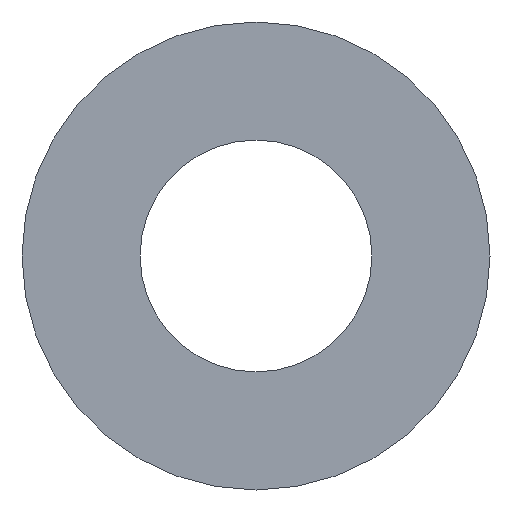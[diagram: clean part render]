
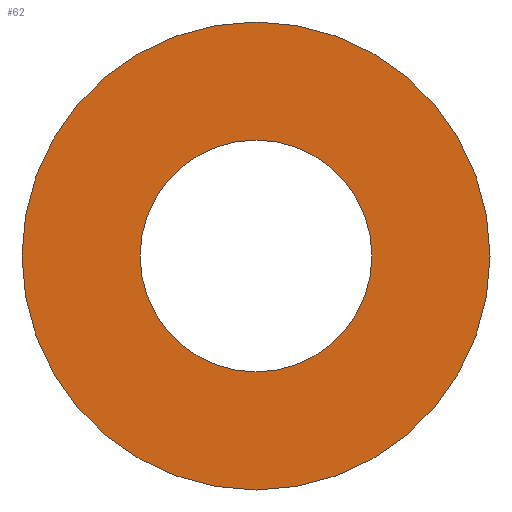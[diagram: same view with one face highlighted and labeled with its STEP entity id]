
A CAD part, front view. The second image highlights one B-rep face of the part: STEP entity #62.
In plain terms, the highlighted planar face has unit normal (0, -1, 0).
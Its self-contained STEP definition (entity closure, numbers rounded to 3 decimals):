
#20=PLANE('',#83);
#26=ORIENTED_EDGE('',*,*,#30,.T.);
#27=ORIENTED_EDGE('',*,*,#32,.F.);
#30=EDGE_CURVE('',#34,#34,#38,.T.);
#32=EDGE_CURVE('',#36,#36,#40,.T.);
#34=VERTEX_POINT('',#106);
#36=VERTEX_POINT('',#111);
#38=CIRCLE('',#78,26.5);
#40=CIRCLE('',#81,53.5);
#46=EDGE_LOOP('',(#26));
#47=EDGE_LOOP('',(#27));
#54=FACE_BOUND('',#46,.T.);
#55=FACE_BOUND('',#47,.T.);
#62=ADVANCED_FACE('',(#54,#55),#20,.F.);
#78=AXIS2_PLACEMENT_3D('',#105,#89,#90);
#81=AXIS2_PLACEMENT_3D('',#110,#95,#96);
#83=AXIS2_PLACEMENT_3D('',#114,#99,#100);
#89=DIRECTION('',(0.,1.,0.));
#90=DIRECTION('',(1.,0.,0.));
#95=DIRECTION('',(0.,1.,0.));
#96=DIRECTION('',(1.,0.,0.));
#99=DIRECTION('',(0.,1.,0.));
#100=DIRECTION('',(0.,0.,1.));
#105=CARTESIAN_POINT('',(0.,-1.5,0.));
#106=CARTESIAN_POINT('',(26.5,-1.5,0.));
#110=CARTESIAN_POINT('',(0.,-1.5,0.));
#111=CARTESIAN_POINT('',(53.5,-1.5,0.));
#114=CARTESIAN_POINT('',(0.,-1.5,0.));
